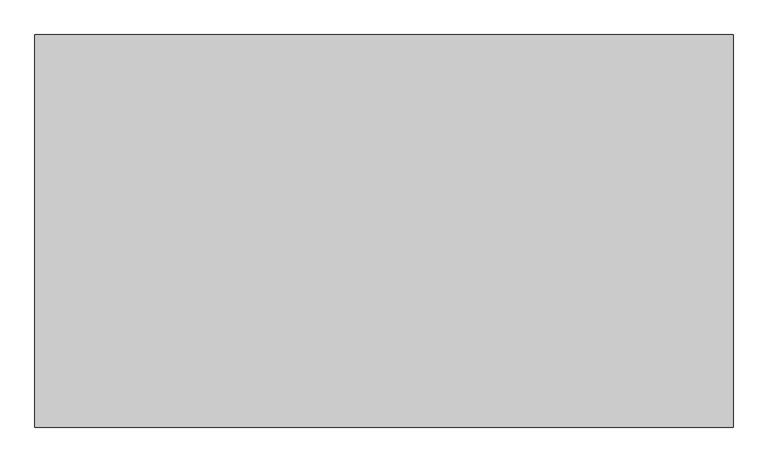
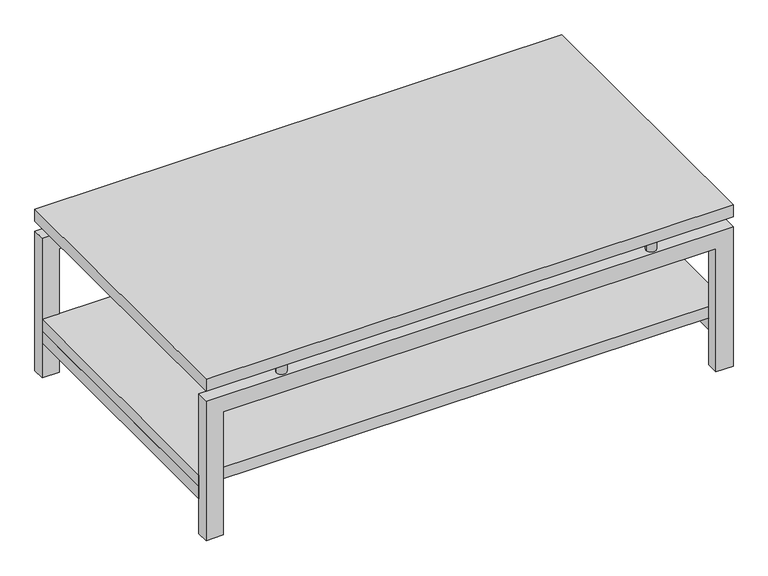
"""IFC4 building model written with IfcOpenShell, lengths in millimetres: furniture geometry, Mobiliário_MobiliáriodeEscritório_LinhaPERFECTA_Mesa de Centro - ZMC 1006_Marelli : Mobiliário_MobiliáriodeEscritório_LinhaPERFECTA_Mesa de Centro - ZMC 1006_Marelli."""

from ifc_helpers import new_model, si_unit, point, frame, frame_2d, origin, place, context, project, spatial, polyline, circle_curve, trimmed, segment, composite_curve, outline, extrude, source, transform, mapped, element, save


def furniture_84ceacd2(model_context):
    return source(origin(), model_context, "Body", "SweptSolid", [
        extrude(outline(polyline([(1067.0, 0.0), (0.0, 0.0), (0.0, 600.0), (1067.0, 600.0), (1067.0, 0.0)])), frame((0.0, 0.0, 320.0000001), z_axis=(0.0, 0.0, 1.0), x_axis=(1.0, 0.0, 0.0)), (0.0, 0.0, 1.0), 25.0000002),
        extrude(outline(polyline([(0.0, 35.0000007), (263.7000003, 35.0000007), (263.7000003, 1032.0000044), (0.0, 1032.0000044), (0.0, 1067.0), (298.7178147, 1067.0), (298.7178147, 0.0), (0.0, 0.0), (0.0, 35.0000007)])), frame((0.0, 0.0, 0.0), z_axis=(0.0, 1.0, 0.0), x_axis=(0.0, 0.0, 1.0)), (0.0, 0.0, 1.0), 25.0),
        extrude(outline(polyline([(0.0, 35.0000007), (263.7000003, 35.0000007), (263.7000003, 1032.0000044), (0.0, 1032.0000044), (0.0, 1067.0), (298.7178147, 1067.0), (298.7178147, 0.0), (0.0, 0.0), (0.0, 35.0000007)])), frame((0.0, 575.0, 0.0), z_axis=(0.0, 1.0, 0.0), x_axis=(0.0, 0.0, 1.0)), (0.0, 0.0, 1.0), 25.0),
        extrude(outline(polyline([(1067.0, 575.0), (1067.0, 25.0), (1032.0000044, 25.0), (1032.0000044, 575.0), (1067.0, 575.0)])), frame((0.0, 0.0, 75.0), z_axis=(0.0, 0.0, 1.0), x_axis=(1.0, 0.0, 0.0)), (0.0, 0.0, 1.0), 25.0),
        extrude(outline(polyline([(34.9999956, 575.0), (34.9999956, 25.0), (0.0, 25.0), (0.0, 575.0), (34.9999956, 575.0)])), frame((0.0, 0.0, 75.0), z_axis=(0.0, 0.0, 1.0), x_axis=(1.0, 0.0, 0.0)), (0.0, 0.0, 1.0), 25.0),
        extrude(outline(polyline([(1067.0, 575.0), (1067.0, 25.0), (0.0, 25.0), (0.0, 575.0), (1067.0, 575.0)])), frame((0.0, 0.0, 100.0), z_axis=(0.0, 0.0, 1.0), x_axis=(1.0, 0.0, 0.0)), (0.0, 0.0, 1.0), 25.0),
        extrude(outline(composite_curve([segment(trimmed(circle_curve(frame_2d((159.7305167, 587.5002005)), 10.0000005), [point((149.7305161, 587.5002005))], [point((169.7305172, 587.5002005))], False, "CARTESIAN"), True, "CONTINUOUS"), segment(trimmed(circle_curve(frame_2d((159.7305167, 587.5002005)), 10.0000005), [point((169.7305172, 587.5002005))], [point((149.7305161, 587.5002005))], False, "CARTESIAN"), True, "CONTINUOUS")], self_intersect=False)), frame((0.0, 0.0, 298.7178147), z_axis=(0.0, 0.0, 1.0), x_axis=(1.0, 0.0, 0.0)), (0.0, 0.0, 1.0), 21.2821854),
        extrude(outline(composite_curve([segment(trimmed(circle_curve(frame_2d((159.7305161, 12.4999)), 10.0), [point((149.7305161, 12.4999))], [point((169.7305161, 12.4999))], False, "CARTESIAN"), True, "CONTINUOUS"), segment(trimmed(circle_curve(frame_2d((159.7305161, 12.4999)), 10.0), [point((169.7305161, 12.4999))], [point((149.7305161, 12.4999))], False, "CARTESIAN"), True, "CONTINUOUS")], self_intersect=False)), frame((0.0, 0.0, 298.7178147), z_axis=(0.0, 0.0, 1.0), x_axis=(1.0, 0.0, 0.0)), (0.0, 0.0, 1.0), 21.2821854),
        extrude(outline(composite_curve([segment(trimmed(circle_curve(frame_2d((907.9766115, 587.5002005)), 10.0000005), [point((917.976612, 587.5002005))], [point((897.9766109, 587.5002005))], False, "CARTESIAN"), True, "CONTINUOUS"), segment(trimmed(circle_curve(frame_2d((907.9766115, 587.5002005)), 10.0000005), [point((897.9766109, 587.5002005))], [point((917.976612, 587.5002005))], False, "CARTESIAN"), True, "CONTINUOUS")], self_intersect=False)), frame((0.0, 0.0, 298.7178147), z_axis=(0.0, 0.0, 1.0), x_axis=(1.0, 0.0, 0.0)), (0.0, 0.0, 1.0), 21.2821854),
        extrude(outline(composite_curve([segment(trimmed(circle_curve(frame_2d((907.976612, 12.4999)), 10.0), [point((917.976612, 12.4999))], [point((897.976612, 12.4999))], False, "CARTESIAN"), True, "CONTINUOUS"), segment(trimmed(circle_curve(frame_2d((907.976612, 12.4999)), 10.0), [point((897.976612, 12.4999))], [point((917.976612, 12.4999))], False, "CARTESIAN"), True, "CONTINUOUS")], self_intersect=False)), frame((0.0, 0.0, 298.7178147), z_axis=(0.0, 0.0, 1.0), x_axis=(1.0, 0.0, 0.0)), (0.0, 0.0, 1.0), 21.2821854),
    ])


if __name__ == "__main__":
    model = new_model("IFC4")
    model_context = context("Model", 3, world=origin())
    ifc_project = project(units=[si_unit("LENGTHUNIT", "METRE", prefix="MILLI")], contexts=[model_context])
    site = spatial("IfcSite", under=ifc_project)
    building = spatial("IfcBuilding", under=site)
    placement = place(None, origin())
    furniture_shape = furniture_84ceacd2(model_context)
    element("IfcFurniture", 1, ObjectType="Mobiliário_MobiliáriodeEscritório_LinhaPERFECTA_Mesa de Centro - ZMC 1006_Marelli : Mobiliário_MobiliáriodeEscritório_LinhaPERFECTA_Mesa de Centro - ZMC 1006_Marelli", at=placement, inside=building, context=model_context, shape_type="MappedRepresentation", body=[
        mapped(furniture_shape, transform((0.0, 0.0, 0.0), x_axis=(1.0, 0.0, 0.0), y_axis=(0.0, 1.0, 0.0), z_axis=(0.0, 0.0, 1.0))),
    ])
    save(model, "model.ifc")
